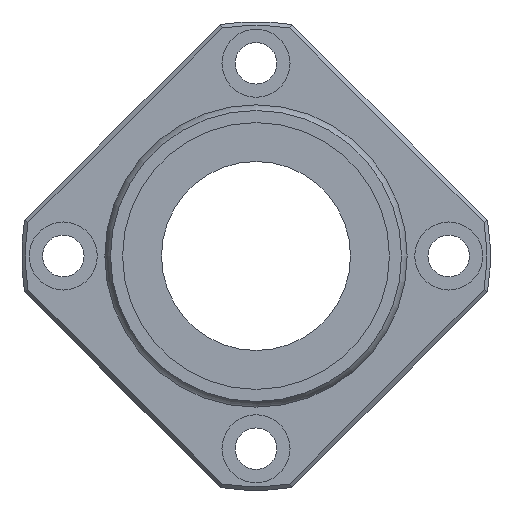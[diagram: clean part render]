
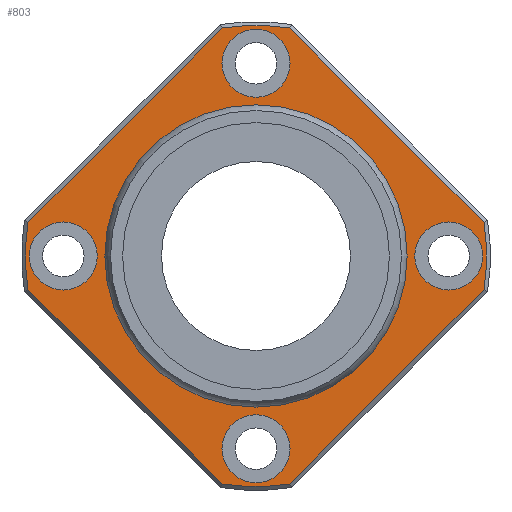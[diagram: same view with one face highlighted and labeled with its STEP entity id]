
A CAD part, left-side view. The second image highlights one B-rep face of the part: STEP entity #803.
In plain terms, the highlighted planar face has unit normal (-1, 0, 0).
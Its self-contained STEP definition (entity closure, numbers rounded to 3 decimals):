
#498=CARTESIAN_POINT('',(52.,-4.479,-30.169));
#499=VERTEX_POINT('',#498);
#507=CARTESIAN_POINT('',(52.,4.479,-30.169));
#508=VERTEX_POINT('',#507);
#509=CARTESIAN_POINT('',(52.,0.0,0.0));
#510=DIRECTION('',(1.0,0.0,0.0));
#511=DIRECTION('',(0.0,0.0,-1.0));
#512=AXIS2_PLACEMENT_3D('',#509,#510,#511);
#513=CIRCLE('',#512,30.5);
#514=EDGE_CURVE('',#499,#508,#513,.T.);
#540=CARTESIAN_POINT('',(52.,30.169,-4.479));
#541=VERTEX_POINT('',#540);
#542=CARTESIAN_POINT('',(52.,4.479,-30.169));
#543=DIRECTION('',(0.0,0.707,0.707));
#544=VECTOR('',#543,36.332);
#545=LINE('',#542,#544);
#546=EDGE_CURVE('',#508,#541,#545,.T.);
#573=CARTESIAN_POINT('',(52.,30.169,4.479));
#574=VERTEX_POINT('',#573);
#575=CARTESIAN_POINT('',(52.,0.0,0.0));
#576=DIRECTION('',(1.0,0.0,0.0));
#577=DIRECTION('',(0.0,0.0,1.0));
#578=AXIS2_PLACEMENT_3D('',#575,#576,#577);
#579=CIRCLE('',#578,30.5);
#580=EDGE_CURVE('',#541,#574,#579,.T.);
#604=CARTESIAN_POINT('',(52.,4.479,30.169));
#605=VERTEX_POINT('',#604);
#606=CARTESIAN_POINT('',(52.,30.169,4.479));
#607=DIRECTION('',(0.0,-0.707,0.707));
#608=VECTOR('',#607,36.332);
#609=LINE('',#606,#608);
#610=EDGE_CURVE('',#574,#605,#609,.T.);
#629=CARTESIAN_POINT('',(52.,-4.479,30.169));
#630=VERTEX_POINT('',#629);
#631=CARTESIAN_POINT('',(52.,0.0,0.0));
#632=DIRECTION('',(1.0,0.0,0.0));
#633=DIRECTION('',(0.0,0.0,1.0));
#634=AXIS2_PLACEMENT_3D('',#631,#632,#633);
#635=CIRCLE('',#634,30.5);
#636=EDGE_CURVE('',#605,#630,#635,.T.);
#655=CARTESIAN_POINT('',(52.,-30.169,4.479));
#656=VERTEX_POINT('',#655);
#657=CARTESIAN_POINT('',(52.,-4.479,30.169));
#658=DIRECTION('',(0.0,-0.707,-0.707));
#659=VECTOR('',#658,36.332);
#660=LINE('',#657,#659);
#661=EDGE_CURVE('',#630,#656,#660,.T.);
#680=CARTESIAN_POINT('',(52.,-30.169,-4.479));
#681=VERTEX_POINT('',#680);
#682=CARTESIAN_POINT('',(52.,0.0,0.0));
#683=DIRECTION('',(1.0,0.0,0.0));
#684=DIRECTION('',(0.0,0.0,1.0));
#685=AXIS2_PLACEMENT_3D('',#682,#683,#684);
#686=CIRCLE('',#685,30.5);
#687=EDGE_CURVE('',#656,#681,#686,.T.);
#706=CARTESIAN_POINT('',(52.,-30.169,-4.479));
#707=DIRECTION('',(0.0,0.707,-0.707));
#708=VECTOR('',#707,36.332);
#709=LINE('',#706,#708);
#710=EDGE_CURVE('',#681,#499,#709,.T.);
#733=CARTESIAN_POINT('',(52.,0.0,25.282));
#734=DIRECTION('',(-1.0,0.0,0.0));
#735=DIRECTION('',(0.0,0.0,1.0));
#736=AXIS2_PLACEMENT_3D('',#733,#734,#735);
#737=PLANE('',#736);
#738=ORIENTED_EDGE('',*,*,#514,.F.);
#739=ORIENTED_EDGE('',*,*,#710,.F.);
#740=ORIENTED_EDGE('',*,*,#687,.F.);
#741=ORIENTED_EDGE('',*,*,#661,.F.);
#742=ORIENTED_EDGE('',*,*,#636,.F.);
#743=ORIENTED_EDGE('',*,*,#610,.F.);
#744=ORIENTED_EDGE('',*,*,#580,.F.);
#745=ORIENTED_EDGE('',*,*,#546,.F.);
#746=EDGE_LOOP('',(#738,#739,#740,#741,#742,#743,#744,#745));
#747=FACE_OUTER_BOUND('',#746,.T.);
#748=CARTESIAN_POINT('',(52.,0.0,19.564));
#749=VERTEX_POINT('',#748);
#750=CARTESIAN_POINT('',(52.,0.0,0.0));
#751=DIRECTION('',(-1.0,0.0,0.0));
#752=DIRECTION('',(0.0,0.0,1.0));
#753=AXIS2_PLACEMENT_3D('',#750,#751,#752);
#754=CIRCLE('',#753,19.564);
#755=EDGE_CURVE('',#749,#749,#754,.T.);
#756=ORIENTED_EDGE('',*,*,#755,.F.);
#757=EDGE_LOOP('',(#756));
#758=FACE_BOUND('',#757,.T.);
#759=CARTESIAN_POINT('',(52.0,-21.0,0.));
#760=VERTEX_POINT('',#759);
#761=CARTESIAN_POINT('',(52.,-25.5,0.));
#762=DIRECTION('',(1.0,0.0,0.0));
#763=DIRECTION('',(0.0,1.0,0.0));
#764=AXIS2_PLACEMENT_3D('',#761,#762,#763);
#765=CIRCLE('',#764,4.5);
#766=EDGE_CURVE('',#760,#760,#765,.T.);
#767=ORIENTED_EDGE('',*,*,#766,.T.);
#768=EDGE_LOOP('',(#767));
#769=FACE_BOUND('',#768,.T.);
#770=CARTESIAN_POINT('',(52.0,30.,0.));
#771=VERTEX_POINT('',#770);
#772=CARTESIAN_POINT('',(52.,25.5,0.));
#773=DIRECTION('',(1.0,0.0,0.0));
#774=DIRECTION('',(0.0,1.0,0.0));
#775=AXIS2_PLACEMENT_3D('',#772,#773,#774);
#776=CIRCLE('',#775,4.5);
#777=EDGE_CURVE('',#771,#771,#776,.T.);
#778=ORIENTED_EDGE('',*,*,#777,.T.);
#779=EDGE_LOOP('',(#778));
#780=FACE_BOUND('',#779,.T.);
#781=CARTESIAN_POINT('',(52.0,4.5,25.5));
#782=VERTEX_POINT('',#781);
#783=CARTESIAN_POINT('',(52.,0.,25.5));
#784=DIRECTION('',(1.0,0.0,0.0));
#785=DIRECTION('',(0.0,1.0,0.0));
#786=AXIS2_PLACEMENT_3D('',#783,#784,#785);
#787=CIRCLE('',#786,4.5);
#788=EDGE_CURVE('',#782,#782,#787,.T.);
#789=ORIENTED_EDGE('',*,*,#788,.T.);
#790=EDGE_LOOP('',(#789));
#791=FACE_BOUND('',#790,.T.);
#792=CARTESIAN_POINT('',(52.0,4.5,-25.5));
#793=VERTEX_POINT('',#792);
#794=CARTESIAN_POINT('',(52.,0.,-25.5));
#795=DIRECTION('',(1.0,0.0,0.0));
#796=DIRECTION('',(0.0,1.0,0.0));
#797=AXIS2_PLACEMENT_3D('',#794,#795,#796);
#798=CIRCLE('',#797,4.5);
#799=EDGE_CURVE('',#793,#793,#798,.T.);
#800=ORIENTED_EDGE('',*,*,#799,.T.);
#801=EDGE_LOOP('',(#800));
#802=FACE_BOUND('',#801,.T.);
#803=ADVANCED_FACE('',(#747,#758,#769,#780,#791,#802),#737,.T.);
